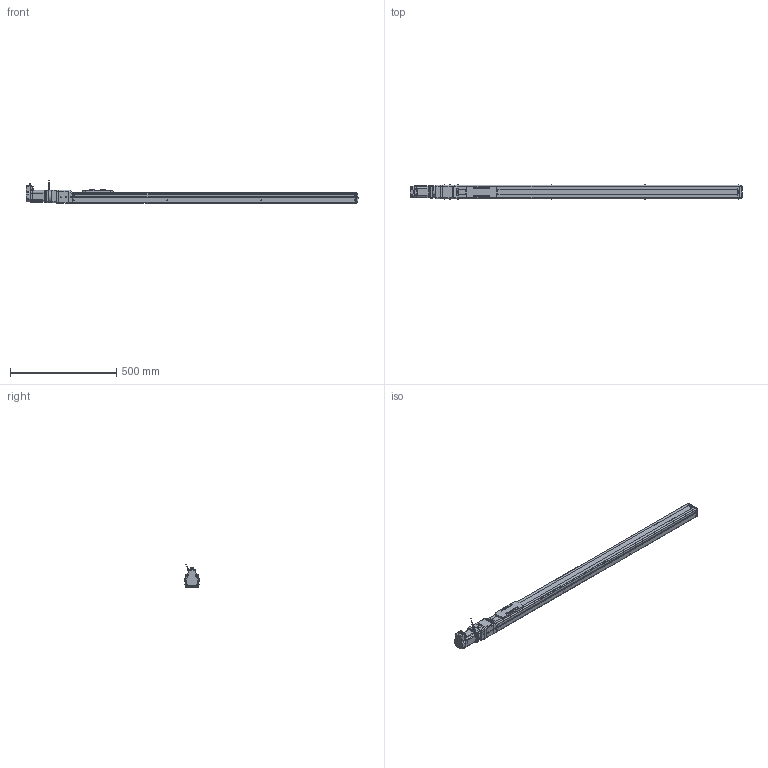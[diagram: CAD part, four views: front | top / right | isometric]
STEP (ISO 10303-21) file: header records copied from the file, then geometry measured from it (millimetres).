
FILE_DESCRIPTION(('FreeCAD Model'),'2;1');
FILE_NAME('Open CASCADE Shape Model','2023-08-03T17:16:34',('Author'),( ''),'Open CASCADE STEP processor 7.5','FreeCAD','Unknown');
FILE_SCHEMA(('AUTOMOTIVE_DESIGN { 1 0 10303 214 1 1 1 1 }'));
Length unit declared in the file: millimetre
Products named in the file (21): RMJ1211_BRK; Shapes; Shapes001; Shapes002; Shapes003; Shapes004; Shapes005; Shapes006; Shapes007; Shapes008; Shapes009; Shapes010; Shapes011; Shapes012; Body; BXW-03-10H-8_STEP; Body001; KSF6-20-1100-0-A0(0); KSF6---(Cover); KSF6-10-0050---(slider); KSF6-20-01100-A0 (01100A0No0)---(body)
Assembly tree (20 placements, depth 3):
  RMJ1211_BRK
    Shapes
    Shapes001
    Shapes002
    Shapes003
    Shapes004
    Shapes005
    Shapes006
    Shapes007
    Shapes008
    Shapes009
    Shapes010
    Shapes011
    Shapes012
    Body
    BXW-03-10H-8_STEP
    Body001
    KSF6-20-1100-0-A0(0)
      KSF6---(Cover)
      KSF6-10-0050---(slider)
      KSF6-20-01100-A0 (01100A0No0)---(body)
Bounding box: 1560.47 x 66.4 x 107.78 mm (x, y, z)
Volume: 4830548.3 mm3; surface area: 519629.2 mm2
Topology: 19 solids, 19 shells, 1914 faces, 5072 edges, 3327 vertices
Faces by surface type: plane 1263, cylinder 501, cone 91, bspline 28, torus 27, revolution 4
Full cylindrical faces by diameter (mm): 2.113 x8, 2.6 x4, 3 x5, 3.242 x5, 4.134 x4, 4.2 x7, 4.3 x1, 4.5 x2, 5 x1, 5.5 x20, 6.5 x4, 7.5 x4, 9 x1, 9.5 x14, 12 x1, 15.5 x1, 17 x1, 38.1 x1, 38.2 x1, 44 x1, 50 x2, 56.2 x1
Entity records: 136185 total; most frequent: CARTESIAN_POINT 31634, DIRECTION 19283, LINE 12474, VECTOR 12474, ORIENTED_EDGE 10096, PCURVE 10096, DEFINITIONAL_REPRESENTATION 10096, EDGE_CURVE 5048
